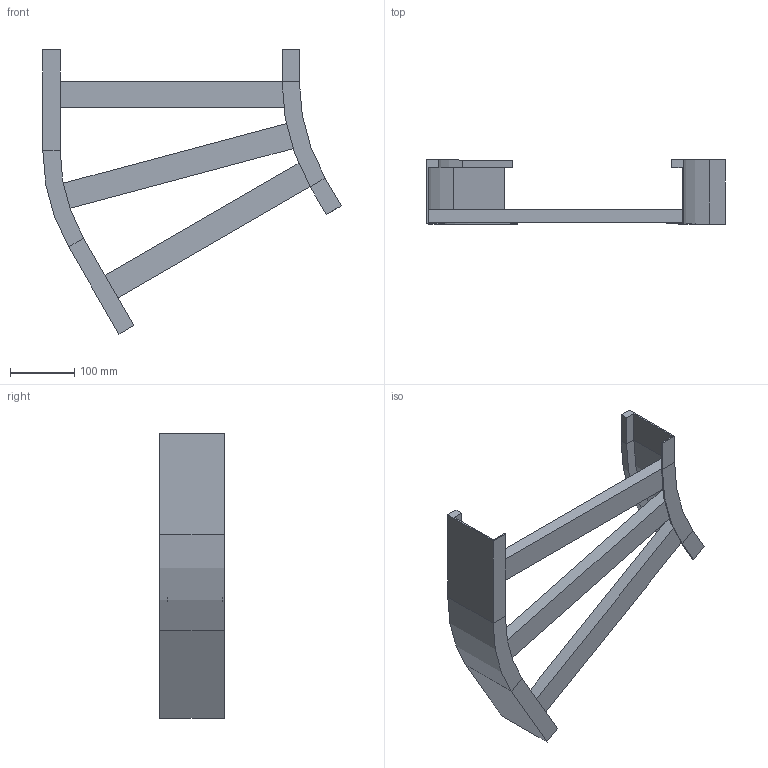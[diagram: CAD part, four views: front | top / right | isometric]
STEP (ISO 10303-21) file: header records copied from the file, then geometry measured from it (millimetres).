
FILE_DESCRIPTION (( 'STEP AP214' ), '1' );
FILE_NAME ('B2_12B3D400.step', '2025-02-21T15:07:48', ( '' ), ( '' ), 'SwSTEP 2.0', 'SolidWorks 2023', '' );
FILE_SCHEMA (( 'AUTOMOTIVE_DESIGN' ));
Length unit declared in the file: millimetre
Products named in the file (5): B2_12B3D400; B2_LONGH.INTERNO 30°_H100_R300; TRAVERSINO_L409; B2_LONGH.ESTERNO 30°_H100_R300+400; TRAVERSINO_400
Assembly tree (5 placements, depth 2):
  B2_12B3D400
    B2_LONGH.INTERNO 30°_H100_R300
    B2_LONGH.ESTERNO 30°_H100_R300+400
    TRAVERSINO_400  x2
    TRAVERSINO_L409
Bounding box: 465.19 x 100 x 443.3 mm (x, y, z)
Volume: 1294815.2 mm3; surface area: 360305.3 mm2
Topology: 5 solids, 5 shells, 70 faces, 148 edges, 88 vertices
Faces by surface type: plane 62, cylinder 8
Entity records: 1822 total; most frequent: DIRECTION 296, CARTESIAN_POINT 288, ORIENTED_EDGE 272, EDGE_CURVE 136, LINE 120, VECTOR 120, AXIS2_PLACEMENT_3D 88, VERTEX_POINT 80
